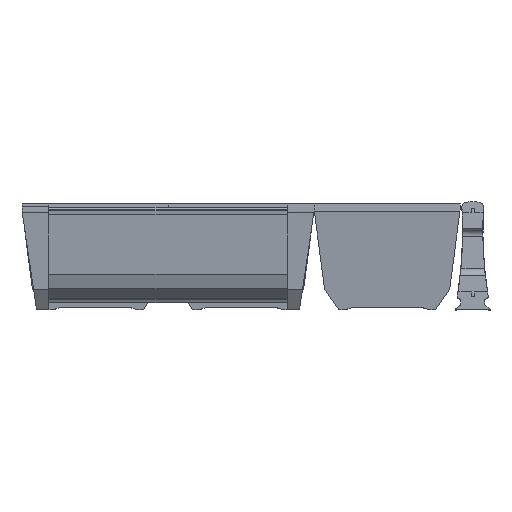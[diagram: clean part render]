
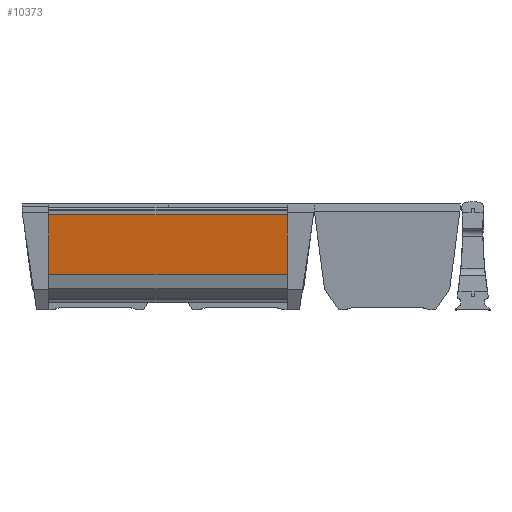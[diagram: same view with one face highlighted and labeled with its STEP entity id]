
A CAD part, front view. The second image highlights one B-rep face of the part: STEP entity #10373.
In plain terms, the highlighted planar face has unit normal (0, -0.991, -0.131).
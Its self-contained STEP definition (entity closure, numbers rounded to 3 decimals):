
#1019 = VERTEX_POINT ( 'NONE', #43341 ) ;
#1022 = VERTEX_POINT ( 'NONE', #43321 ) ;
#10373 = ADVANCED_FACE ( 'NONE', ( #25813 ), #23498, .F. ) ;
#14193 = CARTESIAN_POINT ( 'NONE',  ( 164.5, 8.199, 21.942 ) ) ;
#14213 = CARTESIAN_POINT ( 'NONE',  ( 16.5, 8.199, 21.942 ) ) ;
#19189 = AXIS2_PLACEMENT_3D ( 'NONE', #23473, #23514, #23515 ) ;
#20608 = EDGE_CURVE ( 'NONE', #1019, #50617, #30448, .T. ) ;
#20610 = EDGE_CURVE ( 'NONE', #50646, #1022, #30446, .T. ) ;
#20625 = EDGE_CURVE ( 'NONE', #50617, #50646, #30504, .T. ) ;
#20647 = EDGE_CURVE ( 'NONE', #1019, #1022, #30580, .T. ) ;
#23473 = CARTESIAN_POINT ( 'NONE',  ( 170., 8.199, 21.942 ) ) ;
#23498 = PLANE ( 'NONE',  #19189 ) ;
#23514 = DIRECTION ( 'NONE',  ( 0., 0.991, 0.131 ) ) ;
#23515 = DIRECTION ( 'NONE',  ( 0., -0.131, 0.991 ) ) ;
#25813 = FACE_OUTER_BOUND ( 'NONE', #52825, .T. ) ;
#30446 = LINE ( 'NONE', #32754, #30447 ) ;
#30447 = VECTOR ( 'NONE', #32757, 1000. ) ;
#30448 = LINE ( 'NONE', #32706, #30452 ) ;
#30452 = VECTOR ( 'NONE', #32740, 1000. ) ;
#30504 = LINE ( 'NONE', #32866, #30506 ) ;
#30506 = VECTOR ( 'NONE', #32868, 1000. ) ;
#30580 = LINE ( 'NONE', #33020, #30582 ) ;
#30582 = VECTOR ( 'NONE', #33023, 1000. ) ;
#32706 = CARTESIAN_POINT ( 'NONE',  ( 164.5, 8.199, 21.942 ) ) ;
#32740 = DIRECTION ( 'NONE',  ( 0., 0.131, -0.991 ) ) ;
#32754 = CARTESIAN_POINT ( 'NONE',  ( 16.5, 8.199, 21.942 ) ) ;
#32757 = DIRECTION ( 'NONE',  ( 0., -0.131, 0.991 ) ) ;
#32866 = CARTESIAN_POINT ( 'NONE',  ( 170., 8.199, 21.942 ) ) ;
#32868 = DIRECTION ( 'NONE',  ( -1., 0., 0. ) ) ;
#33020 = CARTESIAN_POINT ( 'NONE',  ( 170., 2.926, 61.998 ) ) ;
#33023 = DIRECTION ( 'NONE',  ( -1., 0., 0. ) ) ;
#42780 = ORIENTED_EDGE ( 'NONE', *, *, #20625, .F. ) ;
#42781 = ORIENTED_EDGE ( 'NONE', *, *, #20610, .F. ) ;
#42782 = ORIENTED_EDGE ( 'NONE', *, *, #20647, .T. ) ;
#42783 = ORIENTED_EDGE ( 'NONE', *, *, #20608, .F. ) ;
#43321 = CARTESIAN_POINT ( 'NONE',  ( 16.5, 2.926, 61.998 ) ) ;
#43341 = CARTESIAN_POINT ( 'NONE',  ( 164.5, 2.926, 61.998 ) ) ;
#50617 = VERTEX_POINT ( 'NONE', #14193 ) ;
#50646 = VERTEX_POINT ( 'NONE', #14213 ) ;
#52825 = EDGE_LOOP ( 'NONE', ( #42783, #42782, #42781, #42780 ) ) ;
